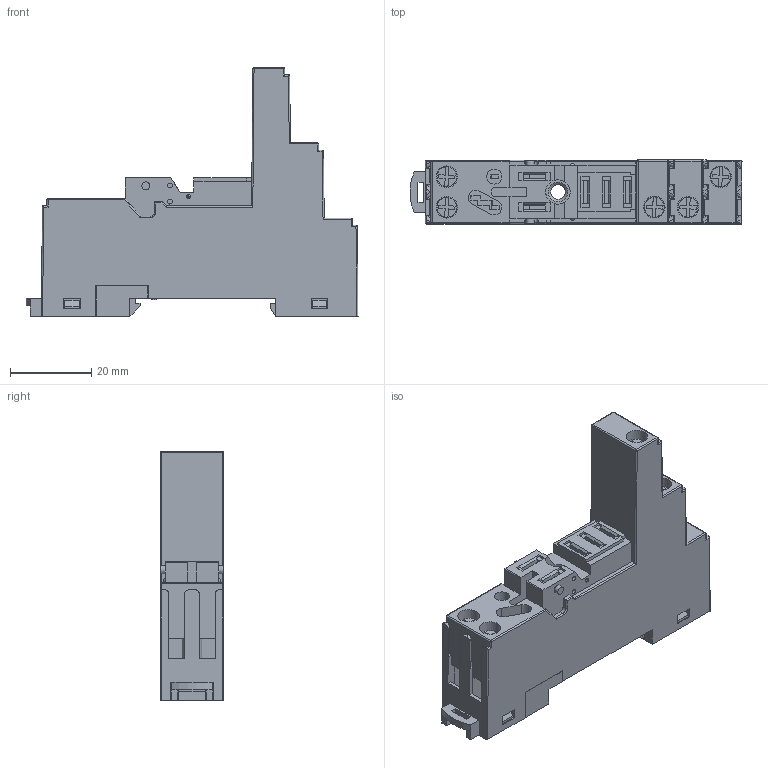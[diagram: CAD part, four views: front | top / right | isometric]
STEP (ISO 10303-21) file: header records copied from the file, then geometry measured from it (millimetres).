
FILE_DESCRIPTION(/* description */ (''),/* implementation_level */ '2;1');
FILE_NAME(/* name */ '157f-1z-c3.stp',/* time_stamp */ '2024-02-26T16:03:26+08:00',/* author */ (''),/* organization */ (''),/* preprocessor_version */ 'ST-DEVELOPER v11',/* originating_system */ 'SIEMENS UGS NX 6.0',/* authorisation */ '');
FILE_SCHEMA (('CONFIG_CONTROL_DESIGN'));
Length unit declared in the file: millimetre
Products named in the file (1): 157f-1z-c3
Bounding box: 81.61 x 15.7 x 61.2 mm (x, y, z)
Volume: 20552.5 mm3; surface area: 25998.2 mm2
Topology: 13 solids, 13 shells, 786 faces, 2145 edges, 1387 vertices
Faces by surface type: plane 636, cylinder 120, bspline 17, sphere 10, torus 2, cone 1
Full cylindrical faces by diameter (mm): 1.2 x4, 1.5 x1, 2 x7, 2.5 x5, 3 x5, 3.6 x1, 3.7 x1, 4.8 x1, 5 x1, 5.3 x5, 6 x1
Entity records: 37234 total; most frequent: CARTESIAN_POINT 17528, ORIENTED_EDGE 4140, DIRECTION 3809, EDGE_CURVE 2070, LINE 1751, VECTOR 1751, VERTEX_POINT 1362, AXIS2_PLACEMENT_3D 1029
